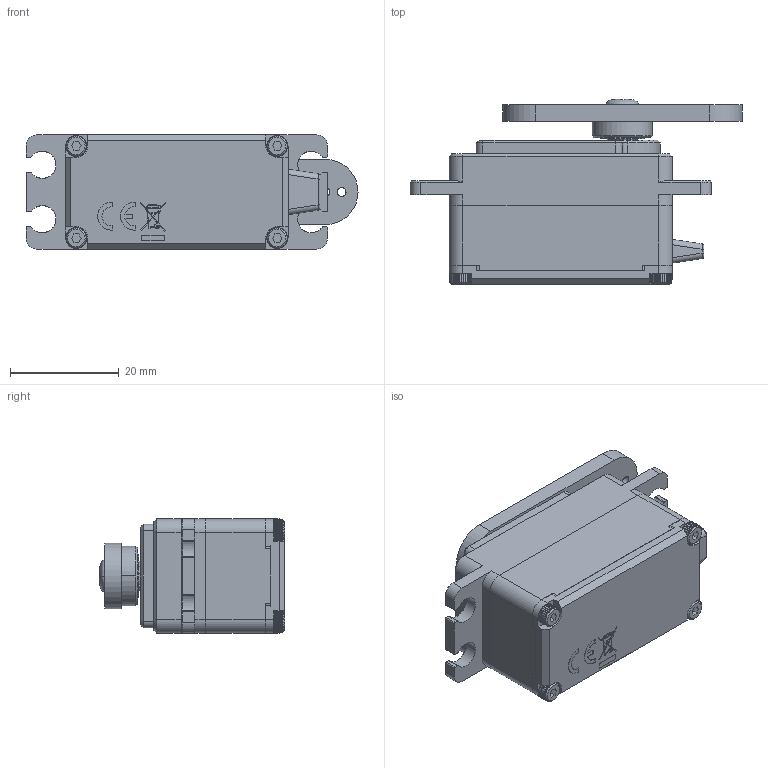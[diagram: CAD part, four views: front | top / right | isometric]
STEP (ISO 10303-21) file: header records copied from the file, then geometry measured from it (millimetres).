
FILE_DESCRIPTION((''),'2;1');
FILE_NAME('DB777WP_ASM','2023-08-29T',('hyojin.kil'),(''),'CREO PARAMETRIC BY PTC INC, 2016050','CREO PARAMETRIC BY PTC INC, 2016050','');
FILE_SCHEMA(('CONFIG_CONTROL_DESIGN'));
Products named in the file (14): DB777T_AL6061_120101010134_1_1_; DB777M_AL6061_120101020118_1_1_; DB777L_AL6061_120101030126_1_1_; 12XXX_SUS_HSH_M2XL8_1_1_1; 120217000084_HD-IM25_1_1_1; 120208000024_11X8X3_METAL_RING_; TW_6_5X3_2_SUS_120204000048_1_1; CBH_M3XL5_SUS_120201000113_1_1_; DB777WP_ASM_1_ASM_1_ASM_1_ASM; ASM0001_ASM_1_ASM_1_ASM; DB777SG5F_SUM24L_120212000587_1; DB777WP_ASM_1_ASM; WP_3P_BUSHING_120105020030; DB777WP_ASM
Assembly tree (16 placements, depth 5):
  DB777WP_ASM
    DB777WP_ASM_1_ASM
      ASM0001_ASM_1_ASM_1_ASM
        DB777WP_ASM_1_ASM_1_ASM_1_ASM
          DB777T_AL6061_120101010134_1_1_
          DB777M_AL6061_120101020118_1_1_
          DB777L_AL6061_120101030126_1_1_
          12XXX_SUS_HSH_M2XL8_1_1_1  x4
          120217000084_HD-IM25_1_1_1
          120208000024_11X8X3_METAL_RING_
          TW_6_5X3_2_SUS_120204000048_1_1
          CBH_M3XL5_SUS_120201000113_1_1_
      DB777SG5F_SUM24L_120212000587_1
    WP_3P_BUSHING_120105020030
Bounding box: 61 x 34 x 21 mm (x, y, z)
Volume: 23147.5 mm3; surface area: 12980.7 mm2
Topology: 13 solids, 17 shells, 2104 faces, 6105 edges, 4058 vertices
Faces by surface type: plane 1229, cylinder 573, cone 175, torus 73, bspline 52, revolution 2
Entity records: 77747 total; most frequent: CARTESIAN_POINT 21851, ORIENTED_EDGE 9534, DIRECTION 8788, EDGE_CURVE 4767, PRESENTATION_STYLE_ASSIGNMENT 3683, STYLED_ITEM 3683, CURVE_STYLE 3522, VERTEX_POINT 3179
